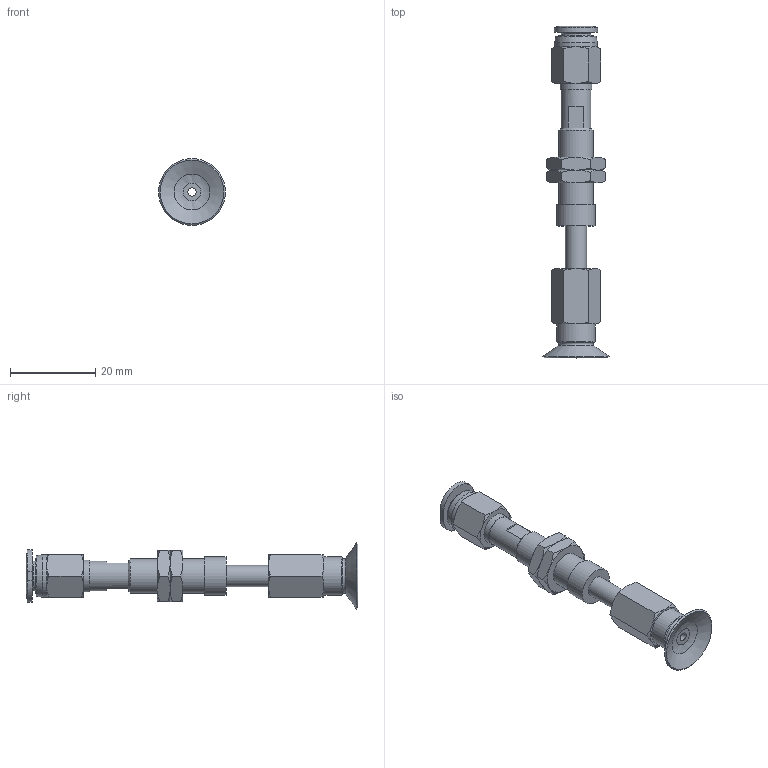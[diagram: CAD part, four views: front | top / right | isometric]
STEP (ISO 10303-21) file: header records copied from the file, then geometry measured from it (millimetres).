
FILE_DESCRIPTION(('STEP AP203'),'1');
FILE_NAME('-O.stp','2025-08-27T05:52:13',(' '),(' '),'Spatial InterOp 3D',' ',' ');
FILE_SCHEMA(('CONFIG_CONTROL_DESIGN'));
Length unit declared in the file: millimetre
Products named in the file (7): BNABPFTS-15A-10-※-O; ADAPTER; NAPATS-10A-10--M; Nut-15A-10-s; NAPFTS-15A-10-FBODY; BPFG-15A-※; PC-C_06-M5
Assembly tree (7 placements, depth 2):
  BNABPFTS-15A-10-※-O
    ADAPTER
    NAPATS-10A-10--M
    Nut-15A-10-s  x2
    NAPFTS-15A-10-FBODY
    BPFG-15A-※
    PC-C_06-M5
Bounding box: 15.7 x 77.98 x 15.7 mm (x, y, z)
Volume: 3612.9 mm3; surface area: 5380.6 mm2
Topology: 6 solids, 9 shells, 164 faces, 336 edges, 202 vertices
Faces by surface type: cone 62, plane 58, cylinder 25, torus 11, bspline 5, revolution 3
Full cylindrical faces by diameter (mm): 2 x3, 4 x4, 4.134 x1, 5 x3, 6 x2, 7 x2, 7.188 x2, 7.4 x1, 8 x1, 8.2 x1, 9 x2, 10 x1
Entity records: 4179 total; most frequent: CARTESIAN_POINT 1209, DIRECTION 549, ORIENTED_EDGE 458, AXIS2_PLACEMENT_3D 253, EDGE_CURVE 231, EDGE_LOOP 214, VERTEX_POINT 165, FACE_OUTER_BOUND 115
